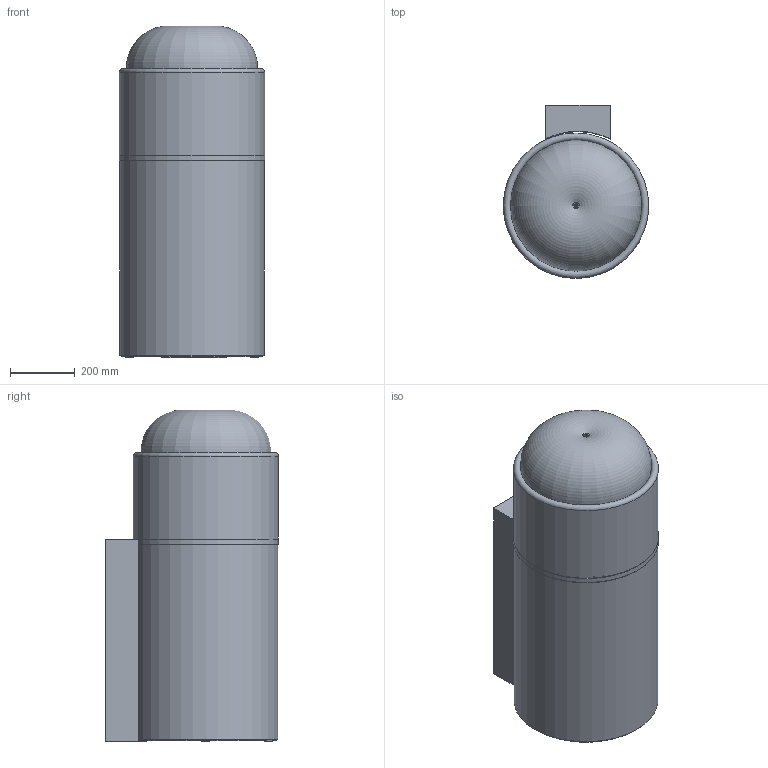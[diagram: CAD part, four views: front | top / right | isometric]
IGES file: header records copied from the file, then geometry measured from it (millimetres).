
Start section: Data from Parasolid IGES Translator 22.0.50, Copyright(c) 2006 Siemens P LM Software. All Rights Reserved.
Global section: file name: noorth-washbasin-H 88 D 45 W 45_5294.igs; native system: By Siemens PLM Incorporated; preprocessor: XPlus GENERIC/IGES 22.0.50; author: Noname; organization: Noname; date: 20240826.213711; units: metre
Bounding box: 451 x 536.34 x 1028.77 mm (x, y, z)
Volume: 99101460.4 mm3; surface area: 3977472.4 mm2
Topology: 11 solids, 11 shells, 64 faces, 96 edges, 61 vertices
Faces by surface type: plane 32, cylinder 24, torus 7, cone 1
Full cylindrical faces by diameter (mm): 25 x4, 50.25 x1, 55.712 x1, 61.989 x1, 150 x1, 200 x1, 250 x1, 417 x1, 429 x1, 429.156 x1, 437 x3, 437.156 x1, 442.06 x1, 447 x3, 449.8 x1, 451 x1
